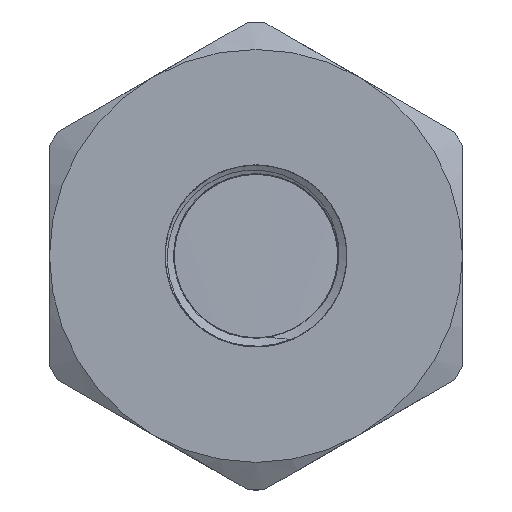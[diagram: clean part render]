
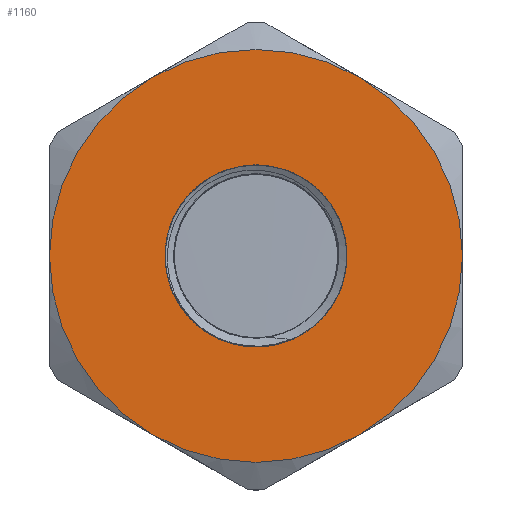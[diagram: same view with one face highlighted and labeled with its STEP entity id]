
A CAD part, top view. The second image highlights one B-rep face of the part: STEP entity #1160.
In plain terms, the highlighted planar face has unit normal (0, 0, 1).
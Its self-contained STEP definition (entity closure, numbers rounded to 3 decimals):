
#115=FACE_BOUND('',#353,.T.);
#128=PLANE('',#1274);
#282=FACE_OUTER_BOUND('',#352,.T.);
#352=EDGE_LOOP('',(#850,#851,#852,#853,#854,#855));
#353=EDGE_LOOP('',(#856,#857));
#411=CIRCLE('',#1235,30.);
#413=CIRCLE('',#1238,30.);
#415=CIRCLE('',#1241,30.);
#416=CIRCLE('',#1243,30.);
#418=CIRCLE('',#1246,30.);
#420=CIRCLE('',#1249,30.);
#432=CIRCLE('',#1275,13.22);
#433=CIRCLE('',#1276,13.22);
#464=VERTEX_POINT('',#1581);
#466=VERTEX_POINT('',#1587);
#468=VERTEX_POINT('',#1594);
#471=VERTEX_POINT('',#1606);
#474=VERTEX_POINT('',#1621);
#477=VERTEX_POINT('',#1633);
#497=VERTEX_POINT('',#1710);
#498=VERTEX_POINT('',#1711);
#586=EDGE_CURVE('',#464,#466,#411,.T.);
#590=EDGE_CURVE('',#468,#464,#413,.T.);
#594=EDGE_CURVE('',#471,#468,#415,.T.);
#596=EDGE_CURVE('',#474,#471,#416,.T.);
#600=EDGE_CURVE('',#477,#474,#418,.T.);
#604=EDGE_CURVE('',#466,#477,#420,.T.);
#636=EDGE_CURVE('',#497,#498,#432,.T.);
#637=EDGE_CURVE('',#498,#497,#433,.T.);
#850=ORIENTED_EDGE('',*,*,#604,.T.);
#851=ORIENTED_EDGE('',*,*,#600,.T.);
#852=ORIENTED_EDGE('',*,*,#596,.T.);
#853=ORIENTED_EDGE('',*,*,#594,.T.);
#854=ORIENTED_EDGE('',*,*,#590,.T.);
#855=ORIENTED_EDGE('',*,*,#586,.T.);
#856=ORIENTED_EDGE('',*,*,#636,.F.);
#857=ORIENTED_EDGE('',*,*,#637,.F.);
#1160=ADVANCED_FACE('',(#282,#115),#128,.T.);
#1235=AXIS2_PLACEMENT_3D('',#1591,#1338,#1339);
#1238=AXIS2_PLACEMENT_3D('',#1603,#1344,#1345);
#1241=AXIS2_PLACEMENT_3D('',#1615,#1350,#1351);
#1243=AXIS2_PLACEMENT_3D('',#1622,#1354,#1355);
#1246=AXIS2_PLACEMENT_3D('',#1634,#1360,#1361);
#1249=AXIS2_PLACEMENT_3D('',#1645,#1366,#1367);
#1274=AXIS2_PLACEMENT_3D('',#1709,#1435,#1436);
#1275=AXIS2_PLACEMENT_3D('',#1712,#1437,#1438);
#1276=AXIS2_PLACEMENT_3D('',#1713,#1439,#1440);
#1338=DIRECTION('center_axis',(0.,0.,1.));
#1339=DIRECTION('ref_axis',(0.,1.,0.));
#1344=DIRECTION('center_axis',(0.,0.,1.));
#1345=DIRECTION('ref_axis',(0.,1.,0.));
#1350=DIRECTION('center_axis',(0.,0.,1.));
#1351=DIRECTION('ref_axis',(0.,1.,0.));
#1354=DIRECTION('center_axis',(0.,0.,1.));
#1355=DIRECTION('ref_axis',(0.,1.,0.));
#1360=DIRECTION('center_axis',(0.,0.,1.));
#1361=DIRECTION('ref_axis',(0.,1.,0.));
#1366=DIRECTION('center_axis',(0.,0.,1.));
#1367=DIRECTION('ref_axis',(0.,1.,0.));
#1435=DIRECTION('center_axis',(0.,0.,1.));
#1436=DIRECTION('ref_axis',(1.,0.,0.));
#1437=DIRECTION('center_axis',(0.,0.,1.));
#1438=DIRECTION('ref_axis',(1.,0.,0.));
#1439=DIRECTION('center_axis',(0.,0.,1.));
#1440=DIRECTION('ref_axis',(1.,0.,0.));
#1581=CARTESIAN_POINT('',(30.,0.,24.3));
#1587=CARTESIAN_POINT('',(15.,25.981,24.3));
#1591=CARTESIAN_POINT('Origin',(0.,0.,24.3));
#1594=CARTESIAN_POINT('',(15.,-25.981,24.3));
#1603=CARTESIAN_POINT('Origin',(0.,0.,24.3));
#1606=CARTESIAN_POINT('',(-15.,-25.981,24.3));
#1615=CARTESIAN_POINT('Origin',(0.,0.,24.3));
#1621=CARTESIAN_POINT('',(-30.,0.,24.3));
#1622=CARTESIAN_POINT('Origin',(0.,0.,24.3));
#1633=CARTESIAN_POINT('',(-15.,25.981,24.3));
#1634=CARTESIAN_POINT('Origin',(0.,0.,24.3));
#1645=CARTESIAN_POINT('Origin',(0.,0.,24.3));
#1709=CARTESIAN_POINT('Origin',(0.,-13.22,24.3));
#1710=CARTESIAN_POINT('',(0.,-13.22,24.3));
#1711=CARTESIAN_POINT('',(0.,13.22,24.3));
#1712=CARTESIAN_POINT('Origin',(0.,0.,24.3));
#1713=CARTESIAN_POINT('Origin',(0.,0.,24.3));
